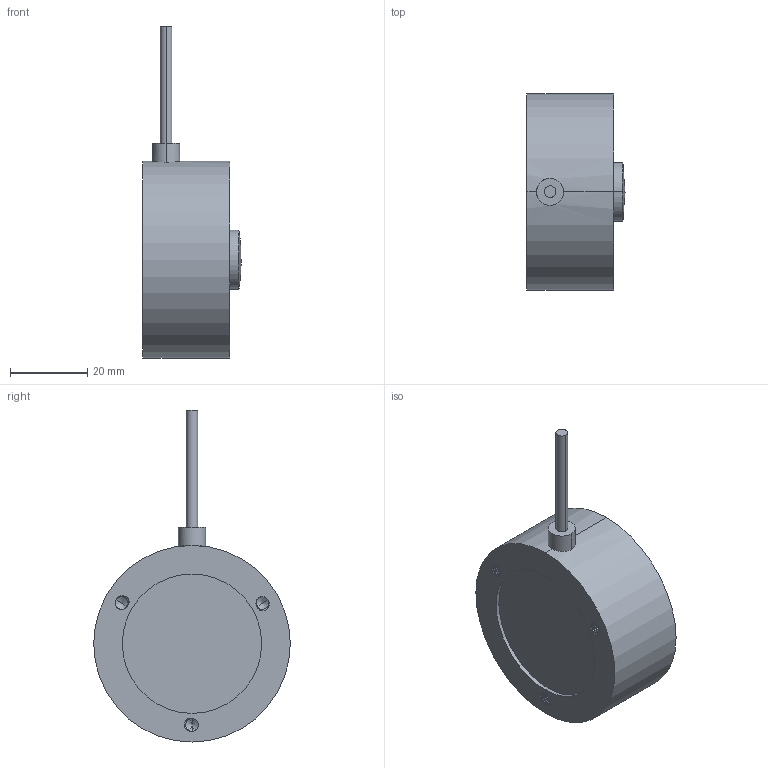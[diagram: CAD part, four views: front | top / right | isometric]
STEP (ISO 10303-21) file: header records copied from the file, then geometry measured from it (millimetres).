
FILE_DESCRIPTION((''),'2;1');
FILE_NAME('14R_100KN_WXT','2024-03-26T10:52:26',('DELL'),(''),'CREO PARAMETRIC BY PTC INC, 2020354','CREO PARAMETRIC BY PTC INC, 2020354','');
FILE_SCHEMA(('CONFIG_CONTROL_DESIGN'));
Length unit declared in the file: millimetre
Products named in the file (1): 14R_100KN_WXT
Bounding box: 25.4 x 50.8 x 85.8 mm (x, y, z)
Volume: 43390.9 mm3; surface area: 9177.4 mm2
Topology: 1 solids, 1 shells, 101 faces, 271 edges, 172 vertices
Faces by surface type: cylinder 65, bspline 18, plane 10, cone 6, sphere 2
Entity records: 6672 total; most frequent: CARTESIAN_POINT 4436, ORIENTED_EDGE 526, DIRECTION 333, EDGE_CURVE 263, VERTEX_POINT 172, B_SPLINE_CURVE_WITH_KNOTS 133, AXIS2_PLACEMENT_3D 120, EDGE_LOOP 109
